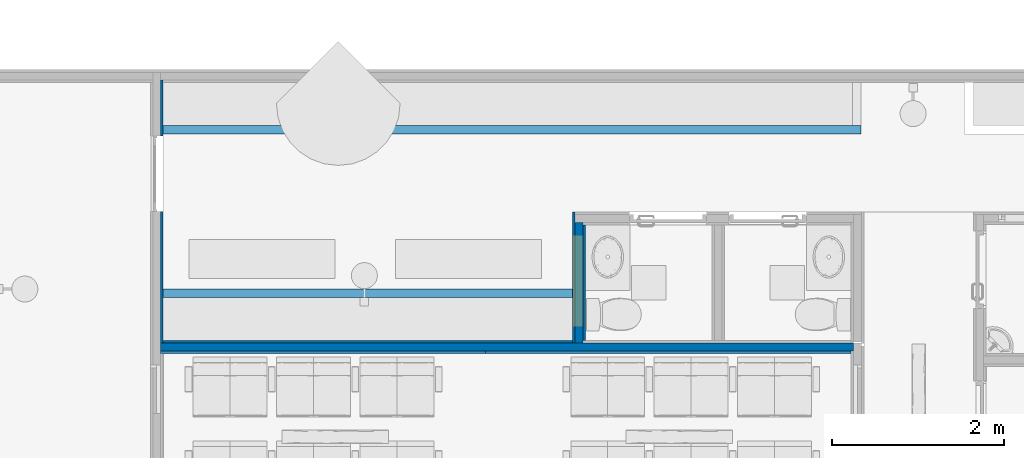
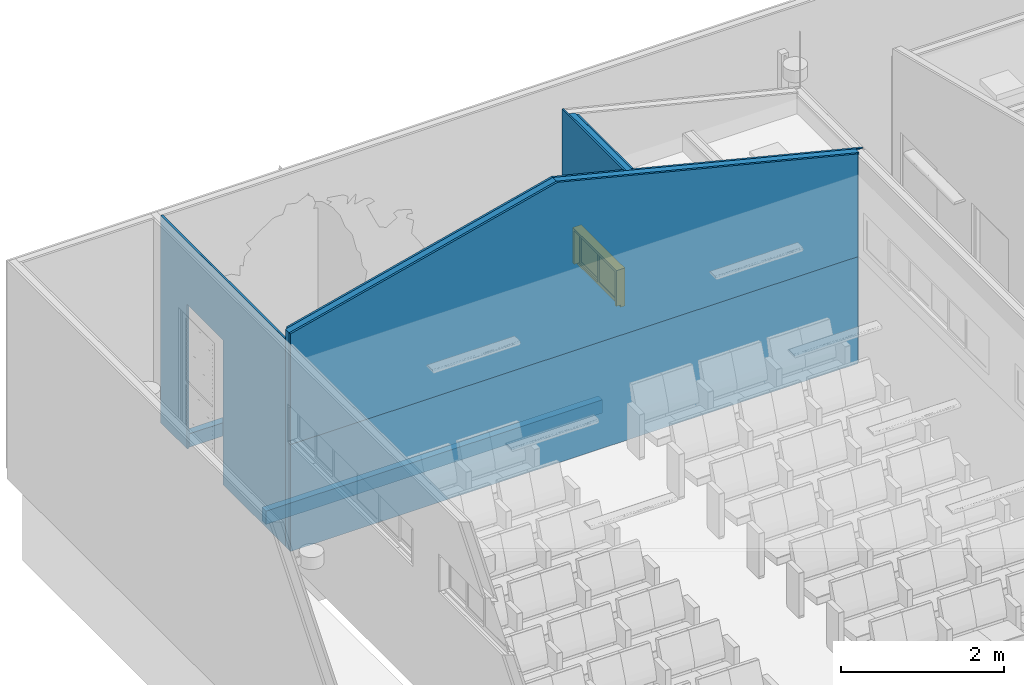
# One storey, part 28 of 155: 10 walls, 1 window, 7 openings.
"""IFC2X3 building model written with IfcOpenShell, lengths in metres."""

from ifc_helpers import new_model, entity, si_unit, converted_unit, derived_unit, direction, frame, frame_2d, origin, origin_2d_with_axis, place, context, subcontext, project, spatial, polyline, rectangle, outline, extrude, clip, halfspace, bounded_halfspace, source, transform, mapped, material, material_list, layer, layer_set, layer_usage, type_object, type_shapes, element, fill, save


model = new_model("IFC2X3")

# Units and contexts
model_context = context("Model", 3, precision=1e-05, world=origin(), true_north=direction((6.12303176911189e-17, 1.0)))
body_context = subcontext(model_context, "Body", "Model", "MODEL_VIEW")
ifc_project = project(units=[si_unit("LENGTHUNIT", "METRE"), si_unit("AREAUNIT", "SQUARE_METRE"), si_unit("VOLUMEUNIT", "CUBIC_METRE"), converted_unit("PLANEANGLEUNIT", "DEGREE", entity("IfcRatioMeasure", 0.0174532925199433), si_unit("PLANEANGLEUNIT", "RADIAN"), dimensions=[0, 0, 0, 0, 0, 0, 0]), si_unit("MASSUNIT", "GRAM", prefix="KILO"), derived_unit("MASSDENSITYUNIT", [(si_unit("MASSUNIT", "GRAM", prefix="KILO"), 1), (si_unit("LENGTHUNIT", "METRE"), -3)]), si_unit("TIMEUNIT", "SECOND"), si_unit("FREQUENCYUNIT", "HERTZ"), si_unit("THERMODYNAMICTEMPERATUREUNIT", "DEGREE_CELSIUS"), derived_unit("THERMALTRANSMITTANCEUNIT", [(si_unit("MASSUNIT", "GRAM", prefix="KILO"), 1), (si_unit("THERMODYNAMICTEMPERATUREUNIT", "KELVIN"), -1), (si_unit("TIMEUNIT", "SECOND"), -3)]), derived_unit("VOLUMETRICFLOWRATEUNIT", [(si_unit("LENGTHUNIT", "METRE"), 3), (si_unit("TIMEUNIT", "SECOND"), -1)]), si_unit("ELECTRICCURRENTUNIT", "AMPERE"), si_unit("ELECTRICVOLTAGEUNIT", "VOLT"), si_unit("POWERUNIT", "WATT"), si_unit("FORCEUNIT", "NEWTON", prefix="KILO"), si_unit("ILLUMINANCEUNIT", "LUX"), si_unit("LUMINOUSFLUXUNIT", "LUMEN"), si_unit("LUMINOUSINTENSITYUNIT", "CANDELA"), derived_unit("USERDEFINED", [(si_unit("MASSUNIT", "GRAM", prefix="KILO"), -1), (si_unit("LENGTHUNIT", "METRE"), -2), (si_unit("TIMEUNIT", "SECOND"), 3), (si_unit("LUMINOUSFLUXUNIT", "LUMEN"), 1)]), derived_unit("LINEARVELOCITYUNIT", [(si_unit("LENGTHUNIT", "METRE"), 1), (si_unit("TIMEUNIT", "SECOND"), -1)]), si_unit("PRESSUREUNIT", "PASCAL"), derived_unit("USERDEFINED", [(si_unit("LENGTHUNIT", "METRE"), -2), (si_unit("MASSUNIT", "GRAM", prefix="KILO"), 1), (si_unit("TIMEUNIT", "SECOND"), -2)])], contexts=[model_context])

# Site, building, storey
site_placement = place(None, frame((26.9889013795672, -17.5624287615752, 0.0)))
site = spatial("IfcSite", under=ifc_project, at=site_placement, Name="Default", CompositionType="ELEMENT")
building_placement = place(site_placement, origin())
building = spatial("IfcBuilding", under=site, at=building_placement, Name="C. C. L. Monsenhor Antônio Sampaio", CompositionType="ELEMENT")
storey_placement = place(building_placement, frame((0.0, 0.0, 1.19999999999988)))
storey = spatial("IfcBuildingStorey", under=building, at=storey_placement, Name="Nível 1.2", CompositionType="ELEMENT", Elevation=1.19999999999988)

# Wall
ifc_material_1 = material(Name="ALVENARIA")
ifc_layer_1 = layer(ifc_material_1, 0.09)
ifc_layer_set_1 = layer_set([ifc_layer_1], Name="Parede básica:ENucleo parede 15cm")
ifc_layer_usage_1 = layer_usage(ifc_layer_set_1, "AXIS2", "NEGATIVE", 0.045)
wall_type_1 = type_object("IfcWallType", Name="Parede básica:ENucleo parede 15cm", PredefinedType="STANDARD", material=ifc_layer_set_1)
wall_1_placement = place(storey_placement, frame((-5.96055229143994, -10.0280663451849, 0.0), z_axis=(0.0, 0.0, 1.0), x_axis=(-1.0, 0.0, 0.0)))
element("IfcWallStandardCase", 1, at=wall_1_placement, inside=storey, type_object=wall_type_1, material=ifc_layer_usage_1, Name="Parede básica:ENucleo parede 15cm", ObjectType="Parede básica:ENucleo parede 15cm", context=body_context, shape_type="Clipping", body=[
    clip(clip(extrude(rectangle(XDim=8.05999999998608, YDim=0.0900000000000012, at=frame_2d((4.02999999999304, 0.0), x_axis=(-1.0, 0.0))), origin(), (0.0, 0.0, 1.0), 4.19909049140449), bounded_halfspace(frame((0.0, -0.0449999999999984, 3.12818098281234), z_axis=(-0.242535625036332, 0.0, 0.970142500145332), x_axis=(0.0, -1.0, 0.0)), False, frame((0.0, -0.0449999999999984, 3.12818098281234)), polyline([(0.0, 0.0), (4.28363803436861, 0.0), (4.2836380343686, 0.089999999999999), (0.0299999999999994, 0.089999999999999), (0.0, 0.089999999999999), (0.0, 0.0324999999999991), (0.0, 0.00249999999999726), (0.0, 0.0)]))), bounded_halfspace(frame((4.28363803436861, -0.0449999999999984, 4.19909049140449), z_axis=(0.242535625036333, 0.0, 0.970142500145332), x_axis=(0.0, 1.0, 0.0)), False, frame((4.28363803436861, -0.0449999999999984, 4.19909049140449)), polyline([(0.0, 0.0), (3.77636196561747, 0.0), (3.77636196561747, 0.089999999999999), (0.0, 0.089999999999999), (0.0, 0.0)]))),
])

# Wall, opening, window
ifc_layer_usage_2 = layer_usage(ifc_layer_set_1, "AXIS2", "POSITIVE", -0.045)
wall_2_placement = place(storey_placement, frame((-9.15555229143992, -8.57689236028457, 0.0), z_axis=(0.0, 0.0, 1.0), x_axis=(0.0, -1.0, 0.0)))
wall_2 = element("IfcWallStandardCase", 2, at=wall_2_placement, inside=storey, type_object=wall_type_1, material=ifc_layer_usage_2, Name="Parede básica:ENucleo parede 15cm", ObjectType="Parede básica:ENucleo parede 15cm", context=body_context, shape_type="Clipping", body=[
    clip(extrude(rectangle(XDim=1.40617398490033, YDim=0.089999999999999, at=frame_2d((0.703086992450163, 4.5102810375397e-17), x_axis=(-1.0, 0.0))), origin(), (0.0, 0.0, 1.0), 3.93818098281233), bounded_halfspace(frame((0.0, -0.0450000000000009, 3.93818098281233), z_axis=(0.0, 0.242535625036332, 0.970142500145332), x_axis=(-1.0, 0.0, 0.0)), False, frame((0.0, -0.0450000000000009, 3.93818098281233)), polyline([(0.0, 0.0), (1.40617398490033, 0.0), (1.40617398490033, 0.0900000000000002), (0.0, 0.0900000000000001), (0.0, 0.0)]))),
])
opening_1_placement = place(wall_2_placement, frame((1.215, 0.0449999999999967, 1.765)))
opening_1 = element("IfcOpeningElement", 3, at=opening_1_placement, cuts=wall_2, Name="Janela 100x50:100 x 50:1", ObjectType="Opening", context=body_context, shape_type="SweptSolid", body=[
    extrude(rectangle(XDim=0.570000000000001, YDim=1.07, at=frame_2d((0.285, 0.535), x_axis=(1.0, 0.0))), frame((0.0, 0.0, 0.0), z_axis=(0.0, -1.0, 0.0), x_axis=(0.0, 0.0, 1.0)), (0.0, 0.0, 1.0), 0.09),
])
ifc_material_2 = material(Name="VIDRO COMUM LISO VERDE")
ifc_material_3 = material(Name="ALUMÍNIO COM PINTURA ELETROSTÁTICA BRANCA")
ifc_material_list_1 = material_list([ifc_material_2, ifc_material_3])
ifc_material_list_2 = material_list([ifc_material_2, ifc_material_3])
window_style = type_object("IfcWindowStyle", Name="100 x 50", ConstructionType="NOTDEFINED", OperationType="NOTDEFINED", ParameterTakesPrecedence=False, Sizeable=False, material=ifc_material_list_2)
shared_shape = source(origin(), body_context, "Body", "SweptSolid", [
    extrude(rectangle(XDim=0.00599999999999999, YDim=0.4475, at=origin_2d_with_axis()), frame((0.293749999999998, 0.0583758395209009, 0.0699999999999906), z_axis=(0.0, 0.0, 1.0), x_axis=(0.0, -1.0, 0.0)), (0.0, 0.0, 1.0), 0.43),
    extrude(outline(polyline([(-0.25875, -0.250000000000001), (0.25875, -0.250000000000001), (0.25875, 0.250000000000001), (-0.25875, 0.250000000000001), (-0.25875, -0.250000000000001)]), holes=[polyline([(-0.22375, -0.215000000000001), (-0.22375, 0.215), (0.22375, 0.215), (0.22375, -0.215000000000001), (-0.22375, -0.215000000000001)])]), frame((0.293749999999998, 0.0458758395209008, 0.284999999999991), z_axis=(0.0, 1.0, 0.0), x_axis=(1.0, 0.0, 0.0)), (0.0, 0.0, 1.0), 0.025),
    extrude(rectangle(XDim=0.4475, YDim=0.00599999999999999, at=origin_2d_with_axis()), frame((0.77625, 0.0333758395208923, 0.0699999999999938), z_axis=(0.0, 0.0, 1.0), x_axis=(-1.0, 0.0, 0.0)), (0.0, 0.0, 1.0), 0.43),
    extrude(outline(polyline([(-0.250000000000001, -0.25875), (0.250000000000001, -0.25875), (0.250000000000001, 0.25875), (-0.250000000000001, 0.25875), (-0.250000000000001, -0.25875)]), holes=[polyline([(-0.215000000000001, -0.22375), (-0.215000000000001, 0.22375), (0.215000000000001, 0.22375), (0.215000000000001, -0.22375), (-0.215000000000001, -0.22375)])]), frame((0.77625, 0.0208758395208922, 0.284999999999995), z_axis=(0.0, 1.0, 0.0), x_axis=(0.0, 0.0, -1.0)), (0.0, 0.0, 1.0), 0.025),
    extrude(rectangle(XDim=0.06, YDim=1.07, at=origin_2d_with_axis()), frame((0.534999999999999, 0.03, 0.0), z_axis=(0.0, 0.0, 1.0), x_axis=(0.0, -1.0, 0.0)), (0.0, 0.0, 1.0), 0.0349999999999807),
    extrude(rectangle(XDim=0.12, YDim=0.0349999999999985, at=origin_2d_with_axis()), frame((1.0525, 0.06, 0.0349999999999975), z_axis=(0.0, 0.0, 1.0), x_axis=(0.0, -1.0, 0.0)), (0.0, 0.0, 1.0), 0.500000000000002),
    extrude(rectangle(XDim=0.12, YDim=0.0350000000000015, at=origin_2d_with_axis()), frame((0.017499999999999, 0.06, 0.0349999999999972), z_axis=(0.0, 0.0, 1.0), x_axis=(0.0, -1.0, 0.0)), (0.0, 0.0, 1.0), 0.500000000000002),
    extrude(rectangle(XDim=0.12, YDim=1.07, at=origin_2d_with_axis()), frame((0.534999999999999, 0.06, 0.534999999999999), z_axis=(0.0, 0.0, 1.0), x_axis=(0.0, -1.0, 0.0)), (0.0, 0.0, 1.0), 0.0350000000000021),
])
type_shapes(window_style, [shared_shape])
window_placement = place(opening_1_placement, frame((0.0, 0.0, 0.0), z_axis=(0.0, 0.0, 1.0), x_axis=(-1.0, 0.0, 0.0)))
window = element("IfcWindow", 4, at=window_placement, inside=storey, type_object=window_style, material=ifc_material_list_1, Name="Janela 100x50:100 x 50", ObjectType="100 x 50", OverallHeight=0.570000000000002, OverallWidth=1.07, context=body_context, shape_type="MappedRepresentation", body=[
    mapped(shared_shape, transform((0.0, 0.0, 0.0), scale=1.0)),
])
fill(opening_1, window)

# Walls
ifc_material_4 = material(Name=".CERÂMICA 10x10 BRANCA")
ifc_layer_2 = layer(ifc_material_4, 0.0035)
ifc_material_5 = material(Name="Argamassa Colante")
ifc_layer_3 = layer(ifc_material_5, 0.02)
ifc_material_6 = material(Name="4")
ifc_layer_4 = layer(ifc_material_6, 0.0015)
ifc_material_7 = material(Name="3")
ifc_layer_5 = layer(ifc_material_7, 0.005)
ifc_layer_set_2 = layer_set([ifc_layer_2, ifc_layer_3, ifc_layer_4, ifc_layer_5], Name="Parede básica:ECeramica branca 10x10cm")
ifc_layer_usage_3 = layer_usage(ifc_layer_set_2, "AXIS2", "NEGATIVE", 0.015)
wall_type_2 = type_object("IfcWallType", Name="Parede básica:ECeramica branca 10x10cm", PredefinedType="STANDARD", material=ifc_layer_set_2)
wall_3_placement = place(storey_placement, frame((-5.99055229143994, -10.0880663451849, 0.0), z_axis=(0.0, 0.0, 1.0), x_axis=(-1.0, 0.0, 0.0)))
element("IfcWallStandardCase", 5, at=wall_3_placement, inside=storey, type_object=wall_type_2, material=ifc_layer_usage_3, Name="Parede básica:ECeramica branca 10x10cm", ObjectType="Parede básica:ECeramica branca 10x10cm", context=body_context, shape_type="Clipping", body=[
    clip(extrude(rectangle(XDim=8.02999999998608, YDim=0.0300000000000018, at=frame_2d((4.01499999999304, 0.0), x_axis=(-1.0, 0.0))), origin(), (0.0, 0.0, 1.0), 1.6), bounded_halfspace(frame((0.0, -0.0149999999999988, 1.6), z_axis=(0.0, 0.0, -1.0), x_axis=(0.0, 1.0, 0.0)), True, frame((0.0, -0.0149999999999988, 1.6)), polyline([(0.0, 0.0), (8.02999999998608, 0.0), (8.02999999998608, 0.0299999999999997), (8.0, 0.0299999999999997), (0.0, 0.0299999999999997), (0.0, 0.0)]))),
])
ifc_layer_usage_4 = layer_usage(ifc_layer_set_2, "AXIS2", "NEGATIVE", 0.015)
wall_4_placement = place(storey_placement, frame((-9.09555229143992, -8.60689236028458, 0.0), z_axis=(0.0, 0.0, 1.0), x_axis=(0.0, -1.0, 0.0)))
element("IfcWallStandardCase", 6, at=wall_4_placement, inside=storey, type_object=wall_type_2, material=ifc_layer_usage_4, Name="Parede básica:ECeramica branca 10x10cm", ObjectType="Parede básica:ECeramica branca 10x10cm", context=body_context, shape_type="Clipping", body=[
    clip(extrude(rectangle(XDim=1.34617398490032, YDim=0.0299999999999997, at=frame_2d((0.673086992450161, 0.0), x_axis=(-1.0, 0.0))), origin(), (0.0, 0.0, 1.0), 3.91568098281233), bounded_halfspace(frame((0.0, -0.0150000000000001, 3.91568098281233), z_axis=(0.0, 0.242535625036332, 0.970142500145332), x_axis=(-1.0, 0.0, 0.0)), False, frame((0.0, -0.0150000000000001, 3.91568098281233)), polyline([(0.0, 0.0), (1.34617398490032, 0.0), (1.34617398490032, 0.0299999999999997), (0.0, 0.0299999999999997), (0.0, 0.0)]))),
])
ifc_material_8 = material(Name="Acabamento Branco")
ifc_layer_6 = layer(ifc_material_8, 0.0035)
ifc_material_9 = material(Name="Massa corrida")
ifc_layer_7 = layer(ifc_material_9, 0.02)
ifc_layer_8 = layer(ifc_material_6, 0.0015)
ifc_layer_9 = layer(ifc_material_7, 0.005)
ifc_layer_set_3 = layer_set([ifc_layer_6, ifc_layer_7, ifc_layer_8, ifc_layer_9], Name="Parede básica:EPintura Branca")
ifc_layer_usage_5 = layer_usage(ifc_layer_set_3, "AXIS2", "NEGATIVE", 0.015)
wall_type_3 = type_object("IfcWallType", Name="Parede básica:EPintura Branca", PredefinedType="STANDARD", material=ifc_layer_set_3)
wall_5_placement = place(storey_placement, frame((-5.99055229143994, -10.0880663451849, 1.6), z_axis=(0.0, 0.0, 1.0), x_axis=(-1.0, 0.0, 0.0)))
element("IfcWallStandardCase", 7, at=wall_5_placement, inside=storey, type_object=wall_type_3, material=ifc_layer_usage_5, Name="Parede básica:EPintura Branca", ObjectType="Parede básica:EPintura Branca", context=body_context, shape_type="Clipping", body=[
    clip(clip(extrude(rectangle(XDim=8.02999999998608, YDim=0.0300000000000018, at=frame_2d((4.01499999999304, 0.0), x_axis=(-1.0, 0.0))), origin(), (0.0, 0.0, 1.0), 2.59909049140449), bounded_halfspace(frame((0.0, -0.0149999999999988, 1.53568098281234), z_axis=(-0.242535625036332, 0.0, 0.970142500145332), x_axis=(0.0, -1.0, 0.0)), False, frame((0.0, -0.0149999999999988, 1.53568098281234)), polyline([(0.0, 0.0), (4.25363803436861, 0.0), (4.25363803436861, 0.0299999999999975), (0.0, 0.0299999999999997), (0.0, 0.0)]))), bounded_halfspace(frame((4.25363803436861, -0.0149999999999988, 2.59909049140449), z_axis=(0.242535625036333, 0.0, 0.970142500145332), x_axis=(0.0, 1.0, 0.0)), False, frame((4.25363803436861, -0.0149999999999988, 2.59909049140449)), polyline([(0.0, 0.0), (3.77636196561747, 0.0), (3.77636196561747, 0.0299999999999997), (0.0, 0.0299999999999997), (0.0, 0.0)]))),
])

# Wall, openings
ifc_material_10 = material(Name="Acabamento amarelo")
ifc_layer_10 = layer(ifc_material_10, 0.0035)
ifc_layer_11 = layer(ifc_material_9, 0.02)
ifc_layer_12 = layer(ifc_material_6, 0.0015)
ifc_layer_13 = layer(ifc_material_7, 0.005)
ifc_layer_set_4 = layer_set([ifc_layer_10, ifc_layer_11, ifc_layer_12, ifc_layer_13], Name="Parede básica:EPintura amarela")
ifc_layer_usage_6 = layer_usage(ifc_layer_set_4, "AXIS2", "POSITIVE", -0.015)
wall_type_4 = type_object("IfcWallType", Name="Parede básica:EPintura amarela", PredefinedType="STANDARD", material=ifc_layer_set_4)
wall_6_placement = place(storey_placement, frame((-14.005552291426, -9.98306634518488, 0.0), z_axis=(0.0, 0.0, 1.0), x_axis=(0.0, 1.0, 0.0)))
wall_6 = element("IfcWallStandardCase", 8, at=wall_6_placement, inside=storey, type_object=wall_type_4, material=ifc_layer_usage_6, Name="Parede básica:EPintura amarela", ObjectType="Parede básica:EPintura amarela", context=body_context, shape_type="SweptSolid", body=[
    extrude(rectangle(XDim=3.05999999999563, YDim=0.0300000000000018, at=frame_2d((1.52999999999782, 0.0), x_axis=(-1.0, 0.0))), origin(), (0.0, 0.0, 1.0), 3.10000000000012),
])
opening_2_placement = place(wall_6_placement, origin())
element("IfcOpeningElement", 9, at=opening_2_placement, cuts=wall_6, Name="Parede básica:EPintura amarela", ObjectType="Opening", context=body_context, shape_type="SweptSolid", body=[
    extrude(rectangle(XDim=0.569999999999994, YDim=3.06999999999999, at=frame_2d((0.0, -9.99200722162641e-16), x_axis=(1.0, 0.0))), frame((-1.78999999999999, -1.50899999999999, 2.05000000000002), z_axis=(0.0, 1.0, 0.0), x_axis=(0.0, 0.0, 1.0)), (0.0, 0.0, 1.0), 3.048),
])
opening_3_placement = place(wall_6_placement, origin())
element("IfcOpeningElement", 10, at=opening_3_placement, cuts=wall_6, Name="Parede básica:EPintura amarela", ObjectType="Opening", context=body_context, shape_type="SweptSolid", body=[
    extrude(rectangle(XDim=0.569999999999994, YDim=3.06999999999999, at=frame_2d((0.0, -9.99200722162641e-16), x_axis=(1.0, 0.0))), frame((-5.48999999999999, -1.50899999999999, 2.05000000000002), z_axis=(0.0, 1.0, 0.0), x_axis=(0.0, 0.0, 1.0)), (0.0, 0.0, 1.0), 3.048),
])
opening_4_placement = place(wall_6_placement, origin())
element("IfcOpeningElement", 11, at=opening_4_placement, cuts=wall_6, Name="Parede básica:EPintura amarela", ObjectType="Opening", context=body_context, shape_type="SweptSolid", body=[
    extrude(rectangle(XDim=0.569999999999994, YDim=3.06999999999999, at=frame_2d((0.0, -9.99200722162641e-16), x_axis=(1.0, 0.0))), frame((-9.18999999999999, -1.50899999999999, 2.05000000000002), z_axis=(0.0, 1.0, 0.0), x_axis=(0.0, 0.0, 1.0)), (0.0, 0.0, 1.0), 3.048),
])
opening_5_placement = place(wall_6_placement, origin())
element("IfcOpeningElement", 12, at=opening_5_placement, cuts=wall_6, Name="Parede básica:EPintura amarela", ObjectType="Opening", context=body_context, shape_type="SweptSolid", body=[
    extrude(rectangle(XDim=0.570000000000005, YDim=2.07, at=frame_2d((5.27355936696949e-16, 0.0), x_axis=(1.0, 0.0))), frame((-15.0300000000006, -1.50899999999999, 2.05000000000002), z_axis=(0.0, 1.0, 0.0), x_axis=(0.0, 0.0, 1.0)), (0.0, 0.0, 1.0), 3.048),
])
opening_6_placement = place(wall_6_placement, origin())
element("IfcOpeningElement", 13, at=opening_6_placement, cuts=wall_6, Name="Parede básica:EPintura amarela", ObjectType="Opening", context=body_context, shape_type="SweptSolid", body=[
    extrude(rectangle(XDim=2.15999999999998, YDim=0.879999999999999, at=origin_2d_with_axis()), frame((1.96999999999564, -1.41899999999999, 1.07999999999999), z_axis=(0.0, 1.0, 0.0), x_axis=(0.0, 0.0, 1.0)), (0.0, 0.0, 1.0), 3.048),
])

# Wall
ifc_layer_usage_7 = layer_usage(ifc_layer_set_4, "AXIS2", "POSITIVE", -0.015)
wall_7_placement = place(storey_placement, frame((-9.21555229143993, -8.45689236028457, 0.0), z_axis=(0.0, 0.0, 1.0), x_axis=(0.0, -1.0, 0.0)))
element("IfcWallStandardCase", 14, at=wall_7_placement, inside=storey, type_object=wall_type_4, material=ifc_layer_usage_7, Name="Parede básica:EPintura amarela", ObjectType="Parede básica:EPintura amarela", context=body_context, shape_type="Clipping", body=[
    clip(extrude(rectangle(XDim=1.52617398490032, YDim=0.0299999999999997, at=frame_2d((0.763086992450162, 1.44849410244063e-16), x_axis=(-1.0, 0.0))), origin(), (0.0, 0.0, 1.0), 3.94568098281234), bounded_halfspace(frame((0.0, -0.0150000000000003, 3.94568098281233), z_axis=(0.0, 0.242535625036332, 0.970142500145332), x_axis=(-1.0, 0.0, 0.0)), False, frame((0.0, -0.0150000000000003, 3.94568098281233)), polyline([(0.0, 0.0), (1.52617398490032, 0.0), (1.52617398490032, 0.03), (0.0300000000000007, 0.0299999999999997), (0.0, 0.0299999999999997), (0.0, 0.0)]))),
])

# Wall, opening
ifc_layer_usage_8 = layer_usage(ifc_layer_set_4, "AXIS2", "POSITIVE", -0.015)
wall_8_placement = place(storey_placement, frame((-5.84782836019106, -9.96806634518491, 0.0), z_axis=(0.0, 0.0, 1.0), x_axis=(-1.0, 0.0, 0.0)))
wall_8 = element("IfcWallStandardCase", 15, at=wall_8_placement, inside=storey, type_object=wall_type_4, material=ifc_layer_usage_8, Name="Parede básica:EPintura amarela", ObjectType="Parede básica:EPintura amarela", context=body_context, shape_type="Clipping", body=[
    clip(clip(clip(extrude(rectangle(XDim=8.14272393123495, YDim=0.0300000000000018, at=frame_2d((4.07136196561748, -5.55111512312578e-17), x_axis=(-1.0, 0.0))), origin(), (0.0, 0.0, 1.0), 4.19909049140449), halfspace(frame((0.0, -0.0149999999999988, 3.10000000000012), z_axis=(-0.242535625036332, 0.0, 0.970142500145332), x_axis=(0.0, 1.0, 0.0)), False)), halfspace(frame((4.39636196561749, -0.0149999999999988, 4.19909049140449), z_axis=(0.242535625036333, 0.0, 0.970142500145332), x_axis=(0.0, 1.0, 0.0)), False)), halfspace(frame((0.0, 0.0, 3.10000000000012), z_axis=(-0.677256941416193, 0.0, -0.735746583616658), x_axis=(0.0, 1.0, 0.0)), False)),
])
opening_7_placement = place(wall_8_placement, origin())
element("IfcOpeningElement", 16, at=opening_7_placement, cuts=wall_8, Name="Parede básica:EPintura amarela", ObjectType="Opening", context=body_context, shape_type="SweptSolid", body=[
    extrude(outline(polyline([(-2.3516930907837, -0.760271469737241), (2.22559480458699, -0.760271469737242), (0.126098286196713, 1.52054293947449), (-2.3516930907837, -0.760271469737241)])), frame((2.24514928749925, 0.0149999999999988, 2.06666666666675), z_axis=(0.0, -1.0, 0.0), x_axis=(0.735746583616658, 0.0, -0.677256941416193)), (0.0, 0.0, 1.0), 0.03),
])

# Walls
ifc_material_11 = material(Name=".Pintura branca")
ifc_layer_14 = layer(ifc_material_11, 0.005)
ifc_material_12 = material(Name=".Alvenaria")
ifc_layer_15 = layer(ifc_material_12, 0.09)
ifc_layer_16 = layer(ifc_material_11, 0.005)
ifc_layer_set_5 = layer_set([ifc_layer_14, ifc_layer_15, ifc_layer_16], Name="Parede básica:10cm - Canteiros")
ifc_layer_usage_9 = layer_usage(ifc_layer_set_5, "AXIS2", "NEGATIVE", 0.05)
wall_type_5 = type_object("IfcWallType", Name="Parede básica:10cm - Canteiros", PredefinedType="STANDARD", material=ifc_layer_set_5)
wall_9_placement = place(storey_placement, frame((-9.23055229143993, -9.4030663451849, 0.0), z_axis=(0.0, 0.0, 1.0), x_axis=(-1.0, 0.0, 0.0)))
element("IfcWallStandardCase", 17, at=wall_9_placement, inside=storey, type_object=wall_type_5, material=ifc_layer_usage_9, Name="Parede básica:10cm - Canteiros", ObjectType="Parede básica:10cm - Canteiros", context=body_context, shape_type="SweptSolid", body=[
    extrude(rectangle(XDim=4.75999999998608, YDim=0.0999999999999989, at=frame_2d((2.37999999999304, 0.0), x_axis=(-1.0, 0.0))), origin(), (0.0, 0.0, 1.0), 0.2),
])
ifc_layer_usage_10 = layer_usage(ifc_layer_set_5, "AXIS2", "NEGATIVE", 0.05)
wall_10_placement = place(storey_placement, frame((-13.990552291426, -7.50306634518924, 0.0)))
element("IfcWallStandardCase", 18, at=wall_10_placement, inside=storey, type_object=wall_type_5, material=ifc_layer_usage_10, Name="Parede básica:10cm - Canteiros", ObjectType="Parede básica:10cm - Canteiros", context=body_context, shape_type="SweptSolid", body=[
    extrude(rectangle(XDim=8.11499999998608, YDim=0.0999999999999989, at=frame_2d((4.05749999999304, 1.59594559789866e-16), x_axis=(-1.0, 0.0))), origin(), (0.0, 0.0, 1.0), 0.2),
])

save(model, "model.ifc")
